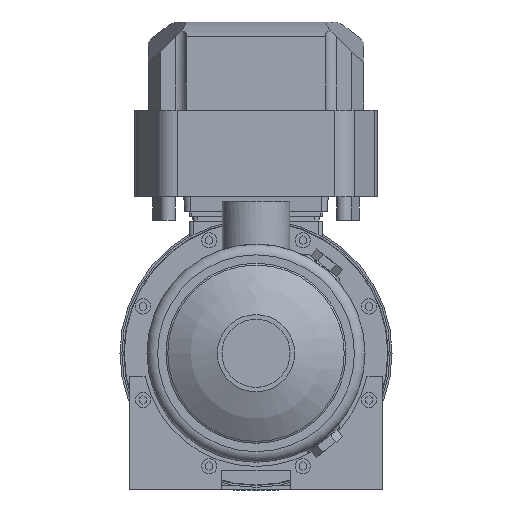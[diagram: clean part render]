
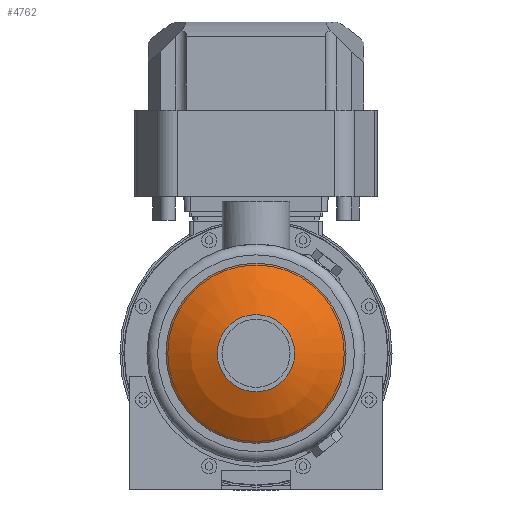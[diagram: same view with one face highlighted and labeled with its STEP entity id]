
A CAD part, left-side view. The second image highlights one B-rep face of the part: STEP entity #4762.
In plain terms, the highlighted spherical face has radius 100 mm.
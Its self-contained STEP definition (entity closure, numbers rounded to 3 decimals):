
#56=SPHERICAL_SURFACE('',#6169,100.);
#1129=ORIENTED_EDGE('',*,*,#2448,.T.);
#1130=ORIENTED_EDGE('',*,*,#2447,.F.);
#2447=EDGE_CURVE('',#3111,#3111,#3567,.T.);
#2448=EDGE_CURVE('',#3112,#3112,#3568,.T.);
#3111=VERTEX_POINT('',#8225);
#3112=VERTEX_POINT('',#8228);
#3567=CIRCLE('',#6168,25.4);
#3568=CIRCLE('',#6170,59.25);
#3758=EDGE_LOOP('',(#1129));
#3759=EDGE_LOOP('',(#1130));
#4169=FACE_BOUND('',#3758,.T.);
#4170=FACE_BOUND('',#3759,.T.);
#4762=ADVANCED_FACE('',(#4169,#4170),#56,.T.);
#6168=AXIS2_PLACEMENT_3D('',#8224,#6708,#6709);
#6169=AXIS2_PLACEMENT_3D('',#8226,#6710,#6711);
#6170=AXIS2_PLACEMENT_3D('',#8227,#6712,#6713);
#6708=DIRECTION('',(-1.,0.,0.));
#6709=DIRECTION('',(0.,0.,1.));
#6710=DIRECTION('',(-1.,0.,0.));
#6711=DIRECTION('',(0.,0.,1.));
#6712=DIRECTION('',(-1.,0.,0.));
#6713=DIRECTION('',(0.,0.,1.));
#8224=CARTESIAN_POINT('',(-52.02,0.,0.));
#8225=CARTESIAN_POINT('',(-52.02,0.,25.4));
#8226=CARTESIAN_POINT('',(44.7,0.,0.));
#8227=CARTESIAN_POINT('',(-35.857,0.,0.));
#8228=CARTESIAN_POINT('',(-35.857,0.,59.25));
